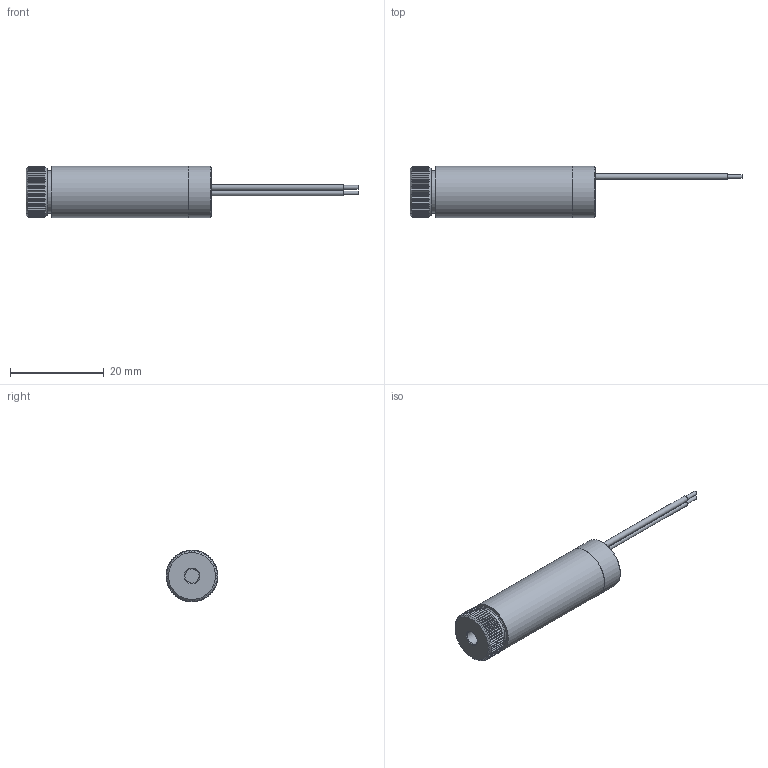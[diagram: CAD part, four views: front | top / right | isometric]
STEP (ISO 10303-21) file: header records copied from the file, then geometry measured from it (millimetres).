
FILE_DESCRIPTION(/* description */ ('Unknown'),/* implementation_level */ '2;1');
FILE_NAME(/* name */ 'ZxF-pe-F',/* time_stamp */ '2017-05-05T11:56:38+02:00',/* author */ ('Unknown'),/* organization */ ('Unknown'),/* preprocessor_version */ 'ST-DEVELOPER v16.7',/* originating_system */ 'DEX',/* authorisation */ $);
FILE_SCHEMA (('AUTOMOTIVE_DESIGN {1 0 10303 214 3 1 1}'));
Length unit declared in the file: millimetre
Products named in the file (5): ZxF-pe-F; 100160801_Endkappe_ZD; 0202102_ZxF-PF Fokusierhalter; 0202110_ZxF-PF_Gehäuse_ø11x29; Rot_Schwarz_30mm
Assembly tree (4 placements, depth 2):
  ZxF-pe-F
    100160801_Endkappe_ZD
    0202102_ZxF-PF Fokusierhalter
    0202110_ZxF-PF_Gehäuse_ø11x29
    Rot_Schwarz_30mm
Bounding box: 70.7 x 11 x 11 mm (x, y, z)
Volume: 1631.2 mm3; surface area: 3565.2 mm2
Topology: 4 solids, 4 shells, 242 faces, 663 edges, 438 vertices
Faces by surface type: plane 147, cylinder 79, cone 16
Full cylindrical faces by diameter (mm): 0.8 x2, 3 x1, 4 x1, 7.7 x1, 8.02 x1, 9 x2, 9.459 x1, 10 x4, 11 x2
Entity records: 7888 total; most frequent: CARTESIAN_POINT 2027, ORIENTED_EDGE 1252, DIRECTION 1054, EDGE_CURVE 626, VERTEX_POINT 428, AXIS2_PLACEMENT_3D 423, EDGE_LOOP 284, FACE_BOUND 284
